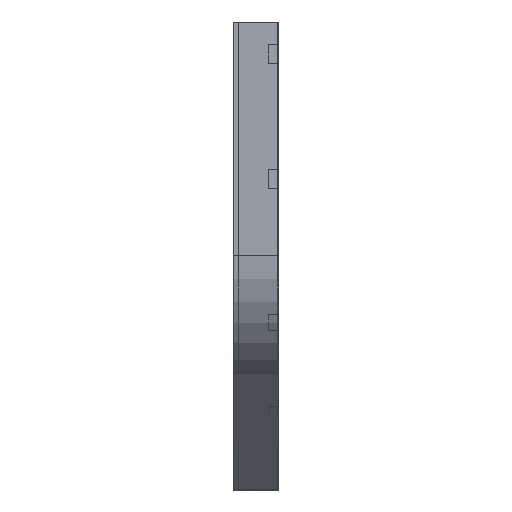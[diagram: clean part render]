
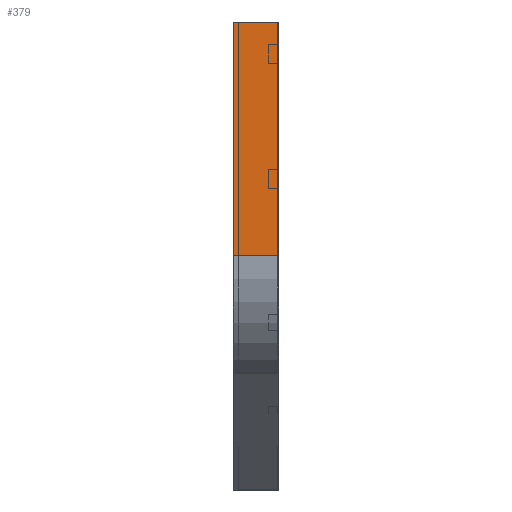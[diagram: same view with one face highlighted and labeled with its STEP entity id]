
A CAD part, left-side view. The second image highlights one B-rep face of the part: STEP entity #379.
In plain terms, the highlighted planar face has unit normal (-1, 0, 0).
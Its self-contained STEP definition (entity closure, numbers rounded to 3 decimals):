
#45 = CARTESIAN_POINT ( 'NONE',  ( 0., 100., -511.88 ) ) ;
#132 = ORIENTED_EDGE ( 'NONE', *, *, #2030, .T. ) ;
#161 = CARTESIAN_POINT ( 'NONE',  ( 0., 100., 0. ) ) ;
#170 = LINE ( 'NONE', #1438, #748 ) ;
#183 = DIRECTION ( 'NONE',  ( 0., 0., -1. ) ) ;
#195 = CARTESIAN_POINT ( 'NONE',  ( 0., 0., -511.88 ) ) ;
#322 = EDGE_CURVE ( 'NONE', #1889, #1321, #1579, .T. ) ;
#346 = VERTEX_POINT ( 'NONE', #1117 ) ;
#379 = ADVANCED_FACE ( 'NONE', ( #699 ), #1020, .F. ) ;
#389 = ORIENTED_EDGE ( 'NONE', *, *, #1651, .F. ) ;
#521 = ORIENTED_EDGE ( 'NONE', *, *, #1496, .F. ) ;
#541 = DIRECTION ( 'NONE',  ( 0., -1., 0. ) ) ;
#672 = CARTESIAN_POINT ( 'NONE',  ( 0., 0., -511.88 ) ) ;
#699 = FACE_OUTER_BOUND ( 'NONE', #1220, .T. ) ;
#748 = VECTOR ( 'NONE', #183, 1000. ) ;
#826 = LINE ( 'NONE', #195, #1900 ) ;
#834 = DIRECTION ( 'NONE',  ( 1., 0., 0. ) ) ;
#980 = DIRECTION ( 'NONE',  ( 0., 0., -1. ) ) ;
#1020 = PLANE ( 'NONE',  #1742 ) ;
#1029 = LINE ( 'NONE', #1956, #1724 ) ;
#1030 = VECTOR ( 'NONE', #980, 1000. ) ;
#1117 = CARTESIAN_POINT ( 'NONE',  ( 0., 0., 0. ) ) ;
#1123 = CARTESIAN_POINT ( 'NONE',  ( 0., 100., 0. ) ) ;
#1184 = CARTESIAN_POINT ( 'NONE',  ( 0., 0., 0. ) ) ;
#1220 = EDGE_LOOP ( 'NONE', ( #521, #389, #1653, #132 ) ) ;
#1321 = VERTEX_POINT ( 'NONE', #45 ) ;
#1438 = CARTESIAN_POINT ( 'NONE',  ( 0., 0., 0. ) ) ;
#1483 = DIRECTION ( 'NONE',  ( 0., -1., 0. ) ) ;
#1496 = EDGE_CURVE ( 'NONE', #346, #2017, #170, .T. ) ;
#1498 = DIRECTION ( 'NONE',  ( 0., 0., -1. ) ) ;
#1579 = LINE ( 'NONE', #161, #1030 ) ;
#1651 = EDGE_CURVE ( 'NONE', #1889, #346, #1029, .T. ) ;
#1653 = ORIENTED_EDGE ( 'NONE', *, *, #322, .T. ) ;
#1724 = VECTOR ( 'NONE', #541, 1000. ) ;
#1742 = AXIS2_PLACEMENT_3D ( 'NONE', #1184, #834, #1498 ) ;
#1889 = VERTEX_POINT ( 'NONE', #1123 ) ;
#1900 = VECTOR ( 'NONE', #1483, 1000. ) ;
#1956 = CARTESIAN_POINT ( 'NONE',  ( 0., 0., 0. ) ) ;
#2017 = VERTEX_POINT ( 'NONE', #672 ) ;
#2030 = EDGE_CURVE ( 'NONE', #1321, #2017, #826, .T. ) ;
